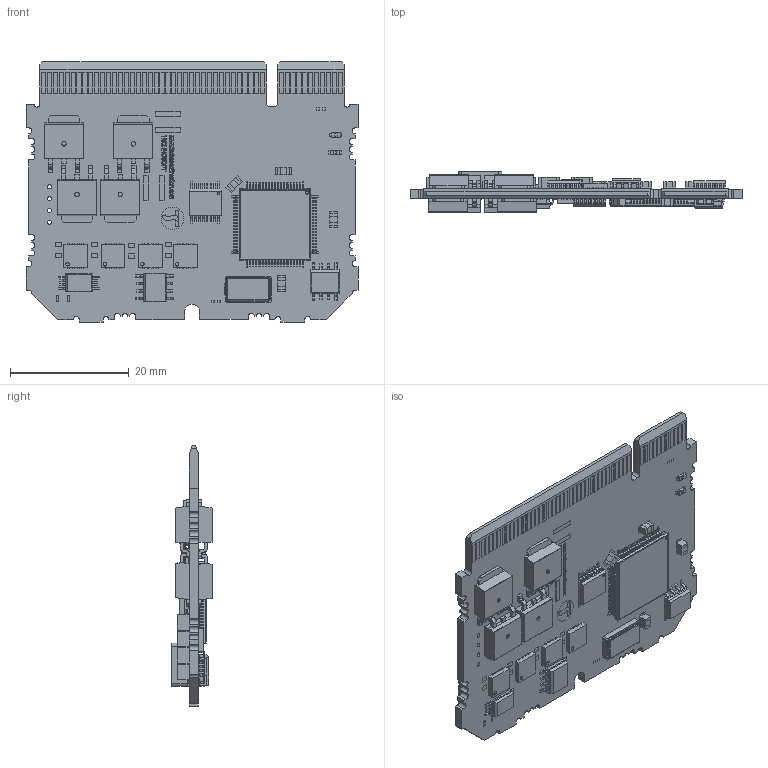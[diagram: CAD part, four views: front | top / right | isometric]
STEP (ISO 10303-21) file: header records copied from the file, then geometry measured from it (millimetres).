
FILE_DESCRIPTION (( 'STEP AP214' ), '1' );
FILE_NAME ('P027.0002-iPOS4808VX.STEP', '2013-02-18T14:29:45', ( 'a_neacsu' ), ( '' ), 'SwSTEP 2.0', 'SolidWorks 2011', '' );
FILE_SCHEMA (( 'AUTOMOTIVE_DESIGN' ));
Length unit declared in the file: millimetre
Products named in the file (1): P027.0002-iPOS4808VX
Bounding box: 56 x 6.93 x 44.02 mm (x, y, z)
Volume: 5195.7 mm3; surface area: 8854.3 mm2
Topology: 56 solids, 56 shells, 6516 faces, 16802 edges, 10797 vertices
Faces by surface type: plane 5154, cylinder 1020, bspline 320, sphere 15, torus 7
Entity records: 281755 total; most frequent: CARTESIAN_POINT 52175, ORIENTED_EDGE 33570, DIRECTION 30338, EDGE_CURVE 16785, LINE 14106, VECTOR 14106, VERTEX_POINT 10797, AXIS2_PLACEMENT_3D 8116
